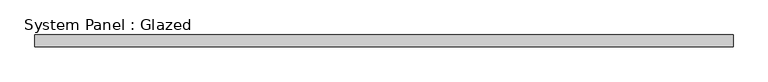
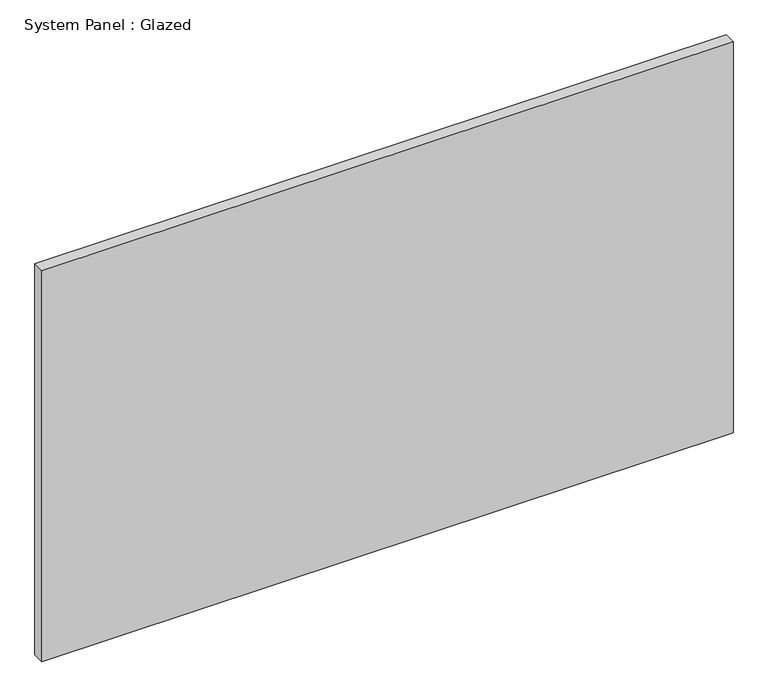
"""IFC4 building model written with IfcOpenShell, lengths in millimetres: plate geometry, System Panel : Glazed."""

from ifc_helpers import new_model, si_unit, origin, origin_with_axes, place, context, project, spatial, polyline, outline, extrude, source, transform, mapped, element, save


def system_panel_glazed_0439a472(model_context):
    return source(origin(), model_context, "Body", "SweptSolid", [
        extrude(outline(polyline([(724.9999999, 24.5), (-724.9999999, 24.5), (-724.9999999, 49.5), (724.9999999, 49.5), (724.9999999, 24.5)])), origin_with_axes(), (0.0, 0.0, 1.0), 866.8785033),
    ])


if __name__ == "__main__":
    model = new_model("IFC4")
    model_context = context("Model", 3, world=origin())
    ifc_project = project(units=[si_unit("LENGTHUNIT", "METRE", prefix="MILLI")], contexts=[model_context])
    site = spatial("IfcSite", under=ifc_project)
    building = spatial("IfcBuilding", under=site)
    placement = place(None, origin())
    system_panel_glazed_shape = system_panel_glazed_0439a472(model_context)
    element("IfcPlate", 1, ObjectType="System Panel : Glazed", at=placement, inside=building, context=model_context, shape_type="MappedRepresentation", body=[
        mapped(system_panel_glazed_shape, transform((0.0, 0.0, 0.0), x_axis=(1.0, 0.0, 0.0), y_axis=(0.0, 1.0, 0.0), z_axis=(0.0, 0.0, 1.0))),
    ])
    save(model, "model.ifc")
